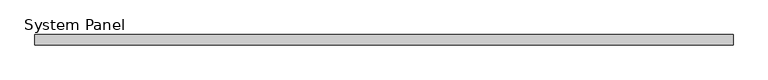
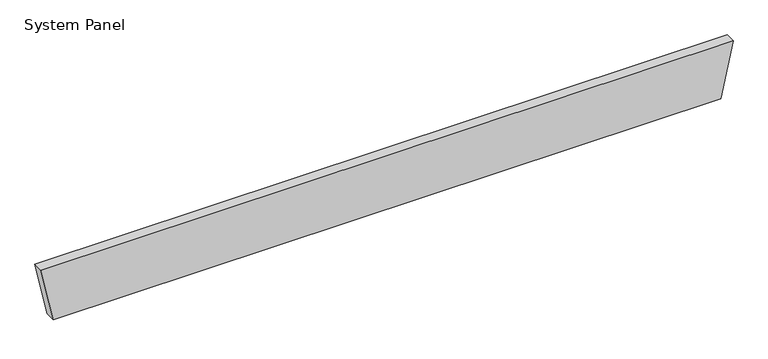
"""IFC4 building model written with IfcOpenShell, lengths in millimetres: plate geometry, System Panel : MetecnoPanel_200mm_Plain_Surfmist."""

from ifc_helpers import new_model, si_unit, frame, origin, place, context, project, spatial, polyline, outline, extrude, source, transform, mapped, element, save


def system_panel_2f546f10(model_context):
    return source(origin(), model_context, "Body", "SweptSolid", [
        extrude(outline(polyline([(0.0, -6478.2647134), (0.0, 6478.2647134), (1100.0, 6717.3970701), (1100.0, -6717.3970701), (0.0, -6478.2647134)])), frame((0.0, -200.0, 0.0), z_axis=(0.0, 1.0, 0.0), x_axis=(0.0, 0.0, 1.0)), (0.0, 0.0, 1.0), 200.0),
    ])


if __name__ == "__main__":
    model = new_model("IFC4")
    model_context = context("Model", 3, world=origin())
    ifc_project = project(units=[si_unit("LENGTHUNIT", "METRE", prefix="MILLI")], contexts=[model_context])
    site = spatial("IfcSite", under=ifc_project)
    building = spatial("IfcBuilding", under=site)
    placement = place(None, origin())
    system_panel_shape = system_panel_2f546f10(model_context)
    element("IfcPlate", 1, ObjectType="System Panel : MetecnoPanel_200mm_Plain_Surfmist", at=placement, inside=building, context=model_context, shape_type="MappedRepresentation", body=[
        mapped(system_panel_shape, transform((0.0, 0.0, 0.0), x_axis=(1.0, 0.0, 0.0), y_axis=(0.0, 1.0, 0.0), z_axis=(0.0, 0.0, 1.0))),
    ])
    save(model, "model.ifc")
